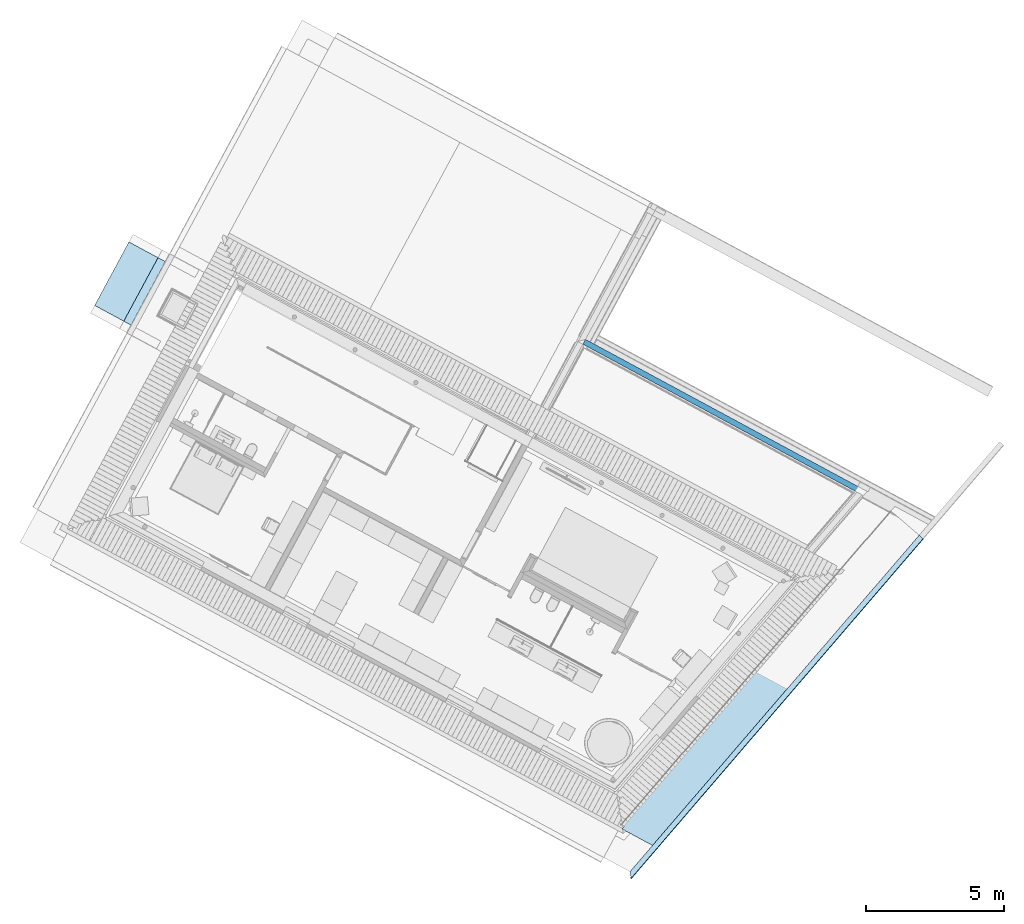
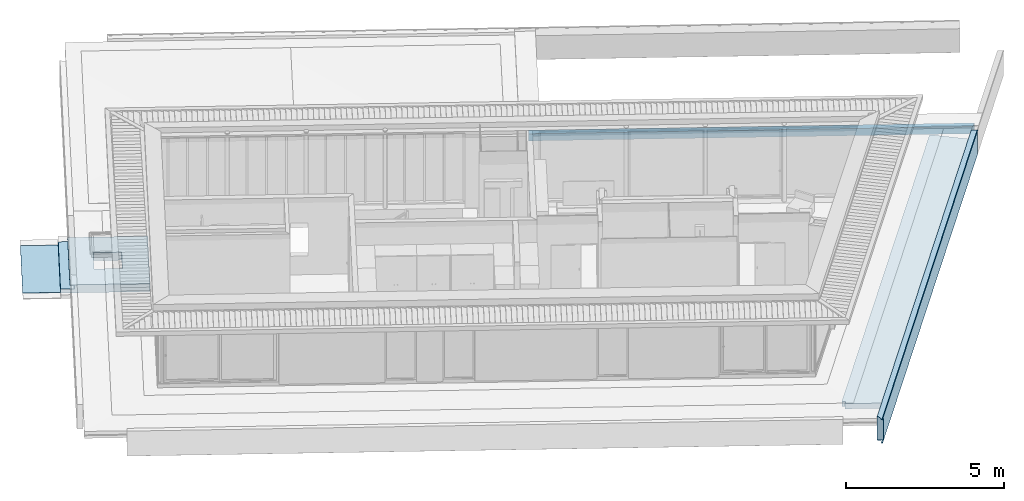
# One storey, part 6 of 41: 3 slabs.
"""IFC2X3 building model written with IfcOpenShell, lengths in metres."""

from ifc_helpers import new_model, entity, si_unit, converted_unit, derived_unit, money_unit, direction, frame, origin_with_axes, place, context, subcontext, project, spatial, polyline, outline, composite_profile, extrude, boolean, faceted_brep, material, material_list, type_object, element, save


model = new_model("IFC2X3")

# Units and contexts
model_context = context("Model", 3, precision=1e-05, world=origin_with_axes(), true_north=direction((0.0, 1.0)))
body_context = subcontext(model_context, "Body", "Model", "MODEL_VIEW")
ifc_project = project(units=[si_unit("LENGTHUNIT", "METRE"), si_unit("AREAUNIT", "SQUARE_METRE"), si_unit("VOLUMEUNIT", "CUBIC_METRE"), converted_unit("PLANEANGLEUNIT", "DEGREE", entity("IfcPlaneAngleMeasure", 0.0174532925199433), si_unit("PLANEANGLEUNIT", "RADIAN"), dimensions=[0, 0, 0, 0, 0, 0, 0]), money_unit("EUR"), converted_unit("TIMEUNIT", "Year", entity("IfcTimeMeasure", 31556926.0), si_unit("TIMEUNIT", "SECOND"), dimensions=[0, 0, 1, 0, 0, 0, 0]), si_unit("MASSUNIT", "GRAM", prefix="KILO"), si_unit("THERMODYNAMICTEMPERATUREUNIT", "DEGREE_CELSIUS"), si_unit("LUMINOUSINTENSITYUNIT", "LUMEN"), si_unit("ENERGYUNIT", "JOULE", prefix="MEGA"), derived_unit("THERMALCONDUCTANCEUNIT", [(si_unit("POWERUNIT", "WATT"), 1), (si_unit("LENGTHUNIT", "METRE"), -1), (si_unit("THERMODYNAMICTEMPERATUREUNIT", "KELVIN"), -1)]), derived_unit("SPECIFICHEATCAPACITYUNIT", [(si_unit("ENERGYUNIT", "JOULE"), 1), (si_unit("MASSUNIT", "GRAM", prefix="KILO"), -1), (si_unit("THERMODYNAMICTEMPERATUREUNIT", "KELVIN"), -1)]), derived_unit("MASSDENSITYUNIT", [(si_unit("MASSUNIT", "GRAM", prefix="KILO"), 1), (si_unit("VOLUMEUNIT", "CUBIC_METRE"), -1)])], contexts=[model_context])

# Site, building, storey
site_placement = place(None, frame((-3.949935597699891, 1.740105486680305, 0.0), z_axis=(0.0, 0.0, 1.0), x_axis=(0.8799804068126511, -0.475009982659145, 0.0)))
site = spatial("IfcSite", under=ifc_project, at=site_placement, Name="Gelände", CompositionType="ELEMENT")
building_placement = place(site_placement, origin_with_axes())
building = spatial("IfcBuilding", under=site, at=building_placement, Name="Gebäude", CompositionType="ELEMENT")
storey_placement = place(building_placement, frame((0.0, 0.0, 4.55), z_axis=(0.0, 0.0, 1.0), x_axis=(1.0, 0.0, 0.0)))
storey = spatial("IfcBuildingStorey", under=building, at=storey_placement, Name="Staffelgeschoss", CompositionType="ELEMENT", Elevation=4.55)

# Slabs
ifc_material_1 = material(Name="_SIWH - Beton, Stahlbeton")
slab_type_1 = type_object("IfcSlabType", Name="_SIWH - Beton, Stahlbeton 200", PredefinedType="FLOOR")
slab_1_placement = place(storey_placement, frame((17.36747696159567, 14.88304610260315, -0.3999999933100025), z_axis=(0.0, 0.0, 1.0), x_axis=(0.9999999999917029, -4.073605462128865e-06, 0.0)))
element("IfcSlab", 1, at=slab_1_placement, inside=storey, type_object=slab_type_1, material=ifc_material_1, Name="Wand-026", PredefinedType="FLOOR", context=body_context, shape_type="CSG", body=[
    boolean("DIFFERENCE", boolean("DIFFERENCE", boolean("DIFFERENCE", boolean("DIFFERENCE", extrude(outline(polyline([(-0.2000008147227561, 0.0), (14.11622564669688, 0.0), (14.11622564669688, 0.1999999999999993), (-0.2000008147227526, 0.1999999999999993), (-0.2000008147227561, 0.0)])), origin_with_axes(), (0.0, 0.0, 1.0), 0.2749999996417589), faceted_brep([(0.0, 0.0, 0.2749999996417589), (-8.147210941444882e-07, 0.1999999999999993, 0.2749999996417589), (-0.2000008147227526, 0.1999999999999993, 0.2749999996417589), (-0.2000008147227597, 0.0, 0.2749999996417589), (-8.147210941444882e-07, 0.1999999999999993, 0.0), (0.0, 0.0, 0.0), (-0.2000008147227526, 0.1999999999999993, 0.0), (-0.2000008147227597, 0.0, 0.0)], [[[0, 1, 2, 3]], [[4, 1, 0, 5]], [[1, 4, 6, 2]], [[2, 6, 7, 3]], [[5, 0, 3, 7]], [[4, 5, 7, 6]]])), faceted_brep([(11.22182561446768, 4.571329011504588e-05, 0.2749999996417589), (11.22181562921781, 0.0, 0.2749999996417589), (11.28327697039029, 0.0, 0.2749999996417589), (11.2832870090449, 4.596365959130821e-05, 0.2749999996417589), (11.22182561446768, 4.571329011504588e-05, 0.0), (11.22181562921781, 0.0, 0.0), (11.28327697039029, 0.0, 0.0), (11.2832870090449, 4.596365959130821e-05, 0.0)], [[[0, 1, 2, 3]], [[1, 0, 4, 5]], [[6, 2, 1, 5]], [[3, 2, 6, 7]], [[0, 3, 7, 4]], [[7, 6, 5, 4]]])), faceted_brep([(11.48800166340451, 4.679758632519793e-05, 0.2749999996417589), (11.48799144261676, 0.0, 0.2749999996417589), (11.53647099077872, 0.0, 0.2749999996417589), (11.53647099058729, 4.699503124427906e-05, 0.2749999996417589), (11.48800166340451, 4.679758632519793e-05, 0.0), (11.48799144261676, 0.0, 0.0), (11.53647099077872, 0.0, 0.0), (11.53647099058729, 4.699503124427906e-05, 0.0)], [[[0, 1, 2, 3]], [[1, 0, 4, 5]], [[6, 2, 1, 5]], [[3, 2, 6, 7]], [[0, 3, 7, 4]], [[7, 6, 5, 4]]])), faceted_brep([(14.1162122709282, 0.2000000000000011, 0.0), (14.11621227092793, 0.2000000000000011, 0.2749999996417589), (14.11622564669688, 0.1999999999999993, 0.2749999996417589), (14.11622564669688, 0.1999999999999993, 0.0), (14.07253143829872, 0.0, 0.2749999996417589), (14.07253143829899, 0.0, 0.0), (14.11622564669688, 0.0, 0.2749999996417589), (14.11622564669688, 0.0, 0.0)], [[[0, 1, 2, 3]], [[4, 1, 0, 5]], [[1, 4, 6, 2]], [[6, 7, 3, 2]], [[5, 0, 3, 7]], [[4, 5, 7, 6]]])),
])
ifc_material_2 = material(Name="_SIWH - Dämmung, weich Mineralwolle")
ifc_material_3 = material(Name="_SIWH - Beton, Stahlbeton Fertigteil")
ifc_material_4 = material(Name="_SIWH - Metall, Aluminium")
ifc_material_list_1 = material_list([ifc_material_2, ifc_material_1, ifc_material_3, ifc_material_4])
slab_type_2 = type_object("IfcSlabType", Name="_SIWH - Vordach+Arkade1 1555 x 980", PredefinedType="FLOOR")
slab_2_placement = place(storey_placement, frame((30.06017097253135, 14.86865152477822, -0.3999999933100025), z_axis=(0.0, 0.0, 1.0), x_axis=(-0.2133784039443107, -0.9769696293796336, 0.0)))
element("IfcSlab", 2, at=slab_2_placement, inside=storey, type_object=slab_type_2, material=ifc_material_list_1, Name="Wand-024", PredefinedType="FLOOR", context=body_context, shape_type="CSG", body=[
    boolean("DIFFERENCE", boolean("DIFFERENCE", boolean("DIFFERENCE", boolean("DIFFERENCE", boolean("DIFFERENCE", extrude(composite_profile([outline(polyline([(0.0, -0.1999999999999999), (0.1199999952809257, -0.1999999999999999), (0.1199999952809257, 5.496263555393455e-09), (0.0, 5.496263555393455e-09), (0.0, -0.1999999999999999)])), outline(polyline([(1.344999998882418, 1.11758913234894e-09), (0.120000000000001, 1.11758913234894e-09), (0.120000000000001, -0.1999999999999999), (1.344999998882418, -0.1999999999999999), (1.344999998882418, 1.11758913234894e-09)])), outline(polyline([(1.545000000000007, -0.570000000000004), (1.545000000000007, 0.3699875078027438), (1.345000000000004, 0.3599875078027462), (1.344999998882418, 1.11758913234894e-09), (1.344999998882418, -0.1999999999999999), (1.345000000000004, -0.5700000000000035), (1.355000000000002, -0.5800000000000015), (1.480000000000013, -0.5800000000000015), (1.49500000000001, -0.565000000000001), (1.510000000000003, -0.5800000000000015), (1.535000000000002, -0.5800000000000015), (1.545000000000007, -0.570000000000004)])), outline(polyline([(1.493152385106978, 0.3744038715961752), (1.493252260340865, 0.3724063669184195), (1.534048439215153, 0.3744461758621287), (1.553000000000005, 0.3948980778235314), (1.553000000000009, 0.3449999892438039), (1.555000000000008, 0.3449999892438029), (1.555000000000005, 0.3999999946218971), (1.53313506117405, 0.3764030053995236), (1.493152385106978, 0.3744038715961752)]))]), frame((-1.06792604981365e-07, 0.0, 0.0), z_axis=(1.0, 0.0, 0.0), x_axis=(0.0, 1.0, 0.0)), (0.0, 0.0, 1.0), 16.24091383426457), faceted_brep([(16.23884657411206, 1.555000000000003, 0.3724063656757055), (16.23884657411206, 1.555000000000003, 0.394898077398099), (16.23605485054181, 1.555000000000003, 0.3948980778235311), (16.24089372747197, 1.555000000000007, 0.400000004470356), (16.24091372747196, 1.555000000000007, 0.3999999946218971), (16.24091372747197, 1.55500000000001, 0.3449999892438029), (16.23884657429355, 1.555, 0.3449999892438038), (16.23884657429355, 1.555, 0.3699875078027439), (16.23928339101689, 1.552999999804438, 0.3724063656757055), (16.23928339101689, 1.552999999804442, 0.3948980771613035), (16.23649166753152, 1.552999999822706, 0.394898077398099), (16.23708736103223, 1.550272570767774, 0.394898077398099), (16.22328884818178, 1.533135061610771, 0.3764030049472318), (16.24091372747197, 1.533135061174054, 0.3764030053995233), (16.24091372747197, 1.493152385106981, 0.3744038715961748), (16.24091372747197, 1.493252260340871, 0.3724063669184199), (16.24091372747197, 1.534048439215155, 0.3744461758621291), (16.24091372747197, 1.553000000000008, 0.3948980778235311), (16.24091372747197, 1.553000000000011, 0.3449999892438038), (16.23928339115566, 1.553000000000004, 0.3449999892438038), (16.23928339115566, 1.553000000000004, 0.3699875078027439), (16.1830301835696, 1.534048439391, 0.3744461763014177), (16.22269331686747, 1.53586171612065, 0.3764030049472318), (16.19109619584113, 1.493152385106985, 0.374403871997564), (16.19117661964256, 1.493252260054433, 0.3724063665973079), (16.18234894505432, 1.533202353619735, 0.374403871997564)], [[[0, 1, 2, 3, 4, 5, 6, 7]], [[1, 0, 8, 9]], [[2, 1, 9, 10]], [[3, 2, 10, 11]], [[11, 12, 13, 4, 3]], [[4, 13, 14, 15, 16, 17, 18, 5]], [[19, 6, 5, 18]], [[7, 6, 19, 20]], [[0, 7, 20, 8]], [[20, 19, 18, 17, 9, 8]], [[10, 9, 17, 16, 21, 22]], [[10, 22, 12, 11]], [[12, 23, 14, 13]], [[23, 24, 15, 14]], [[25, 21, 16, 15, 24]], [[22, 21, 25, 23, 12]], [[25, 24, 23]]])), faceted_brep([(16.02812741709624, 1.5449999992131, -0.2000000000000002), (16.02812741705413, 1.544999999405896, 1.11758868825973e-09), (16.0281274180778, 1.544999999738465, 0.3449999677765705), (16.02812741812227, 1.54499999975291, 0.3599875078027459), (16.23284207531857, 1.545000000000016, 0.3699875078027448), (16.24091372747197, 1.545000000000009, 0.3699875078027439), (16.24091372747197, 1.545000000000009, -0.5700000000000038), (16.18678127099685, 1.545000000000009, -0.5699999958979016), (16.18166340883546, 1.545000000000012, -0.5649999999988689), (16.02812741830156, 1.544999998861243, -0.5650000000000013), (16.0718091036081, 1.344999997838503, 1.11758868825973e-09), (16.0718091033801, 1.344999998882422, -0.2000000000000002), (16.0718091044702, 1.344999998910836, 0.3449999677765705), (16.07180910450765, 1.34499999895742, 0.3599875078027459), (16.24091372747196, 1.345000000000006, 0.3599875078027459), (16.24091372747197, 1.510000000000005, -0.5800000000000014), (16.24091372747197, 1.535000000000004, -0.5800000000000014), (16.24091372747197, 1.344999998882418, 1.11758868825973e-09), (16.24091372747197, 1.344999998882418, -0.1999999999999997), (16.24091372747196, 1.345000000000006, -0.5700000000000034), (16.24091372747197, 1.355000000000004, -0.5800000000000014), (16.24091372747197, 1.480000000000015, -0.5800000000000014), (16.24091372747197, 1.495000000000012, -0.5650000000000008), (16.19920109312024, 1.534999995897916, -0.5800000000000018), (16.19258383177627, 1.49499999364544, -0.5649999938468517), (16.20466130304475, 1.509999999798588, -0.5800000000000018), (16.03904783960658, 1.494999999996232, -0.5649999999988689), (16.07180910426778, 1.3449999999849, -0.5649999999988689), (16.07180910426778, 1.3449999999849, -0.5699999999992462), (16.07986075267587, 1.354999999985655, -0.5800000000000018), (16.05255969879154, 1.479999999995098, -0.5800000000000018), (16.04013988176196, 1.489999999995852, -0.5699999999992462)], [[[0, 1, 2, 3, 4, 5, 6, 7, 8, 9]], [[10, 1, 0, 11]], [[12, 2, 1, 10]], [[13, 3, 2, 12]], [[13, 4, 3]], [[5, 4, 13, 14]], [[15, 16, 6, 5, 14, 17, 18, 19, 20, 21, 22]], [[16, 23, 7, 6]], [[24, 8, 7, 23, 25]], [[26, 9, 8, 24]], [[11, 0, 9, 26, 27]], [[17, 10, 11, 18]], [[13, 12, 10, 17, 14]], [[15, 25, 23, 16]], [[11, 27, 28, 19, 18]], [[19, 28, 29, 20]], [[20, 29, 30, 21]], [[31, 26, 24, 22, 21, 30]], [[22, 24, 25, 15]], [[27, 26, 31, 28]], [[28, 31, 30, 29]]])), faceted_brep([(14.96265338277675, 0.1199999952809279, -0.1999999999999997), (14.96265338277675, 0.1199999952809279, 5.496263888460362e-09), (16.24091372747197, 0.1199999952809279, 5.496263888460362e-09), (16.24091372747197, 0.1199999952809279, -0.1999999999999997), (14.98886239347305, 0.0, 5.496263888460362e-09), (14.98886239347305, 0.0, -0.1999999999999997), (16.24091372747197, 0.0, 5.496263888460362e-09), (16.24091372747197, 0.0, -0.1999999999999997)], [[[0, 1, 2, 3]], [[4, 1, 0, 5]], [[1, 4, 6, 2]], [[6, 7, 3, 2]], [[5, 0, 3, 7]], [[4, 5, 7, 6]]])), faceted_brep([(14.81793184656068, 1.344999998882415, -0.1999999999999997), (14.81793184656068, 1.344999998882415, 1.11758868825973e-09), (16.24091372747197, 1.344999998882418, 1.11758868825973e-09), (16.24091372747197, 1.344999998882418, -0.1999999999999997), (15.08548217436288, 0.120000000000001, 1.11758868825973e-09), (15.08548217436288, 0.120000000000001, -0.1999999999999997), (16.24091372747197, 0.1200000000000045, 1.11758868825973e-09), (16.24091372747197, 0.1200000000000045, -0.1999999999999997)], [[[0, 1, 2, 3]], [[4, 1, 0, 5]], [[1, 4, 6, 2]], [[3, 2, 6, 7]], [[5, 0, 3, 7]], [[4, 5, 7, 6]]])), faceted_brep([(0.02620890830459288, 5.335961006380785e-08, 0.0), (-1.06792604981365e-07, 0.1200000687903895, 0.0), (-1.06792604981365e-07, 0.0, 5.496263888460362e-09), (0.02620890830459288, 5.335961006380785e-08, -0.2000000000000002), (-1.06792604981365e-07, 0.1200000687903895, -0.2000000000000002), (-1.06792604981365e-07, 0.0, -0.1999999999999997)], [[[0, 1, 2]], [[1, 0, 3, 4]], [[1, 4, 5, 2]], [[3, 0, 2, 5]], [[4, 3, 5]]])),
])
ifc_material_5 = material(Name="_SIWH - Abgehängte Decke Arkade")
ifc_material_6 = material(Name="_SIWH - Holz, Bauholz")
ifc_material_7 = material(Name="_SIWH - Luftschicht vertikal")
ifc_material_list_2 = material_list([ifc_material_5, ifc_material_5, ifc_material_6, ifc_material_6, ifc_material_6, ifc_material_6, ifc_material_5, ifc_material_2, ifc_material_7, ifc_material_7, ifc_material_7])
slab_type_3 = type_object("IfcSlabType", Name="_SIWH - Vordach Eingang 1 4035 x 310", PredefinedType="FLOOR")
slab_3_placement = place(storey_placement, frame((2.637489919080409, 7.718034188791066, -0.6499999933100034), z_axis=(0.0, 0.0, 1.0), x_axis=(0.0, 1.0, 0.0)))
element("IfcSlab", 3, at=slab_3_placement, inside=storey, type_object=slab_type_3, material=ifc_material_list_2, Name="Wand-024", PredefinedType="FLOOR", context=body_context, shape_type="CSG", body=[
    boolean("DIFFERENCE", boolean("DIFFERENCE", boolean("DIFFERENCE", boolean("DIFFERENCE", extrude(composite_profile([outline(polyline([(-1.5, -0.3099999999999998), (2.535, -0.3099999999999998), (2.535, -0.2849999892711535), (2.509999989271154, -0.2849999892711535), (2.410000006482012, -0.2849999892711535), (1.784999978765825, -0.2849999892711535), (1.684999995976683, -0.2849999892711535), (0.7850000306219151, -0.2849999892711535), (0.68499998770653, -0.2849999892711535), (-0.1750000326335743, -0.2849999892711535), (-0.2750000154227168, -0.2849999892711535), (-0.300000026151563, -0.2849999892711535), (-1.5, -0.2849999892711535), (-1.5, -0.3099999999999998)])), outline(polyline([(-0.3000000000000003, -0.1599999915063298), (-0.3000000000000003, -0.2849999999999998), (-0.2750000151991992, -0.2849999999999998), (-0.2750000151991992, -0.1849999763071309), (-0.1750000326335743, -0.1849999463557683), (0.68499998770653, -0.1849999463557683), (0.7850000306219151, -0.1849999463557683), (1.684999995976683, -0.1849999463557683), (1.784999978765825, -0.1849999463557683), (2.410000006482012, -0.1849999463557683), (2.510000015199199, -0.1849999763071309), (2.510000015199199, -0.2849999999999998), (2.535, -0.2849999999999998), (2.535, -0.1599999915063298), (0.1600000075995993, -0.1599999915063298), (0.1349999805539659, -0.1599999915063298), (-0.3000000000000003, -0.1599999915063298)])), outline(polyline([(-0.1750000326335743, -0.1849999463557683), (-0.2750000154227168, -0.1849999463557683), (-0.2750000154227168, -0.2849999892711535), (-0.1750000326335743, -0.2849999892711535), (-0.1750000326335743, -0.1849999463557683)])), outline(polyline([(2.509999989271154, -0.1849999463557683), (2.410000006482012, -0.1849999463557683), (2.410000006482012, -0.2849999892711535), (2.509999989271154, -0.2849999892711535), (2.509999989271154, -0.1849999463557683)])), outline(polyline([(0.68499998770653, -0.1849999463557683), (0.68499998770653, -0.2849999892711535), (0.7850000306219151, -0.2849999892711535), (0.7850000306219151, -0.1849999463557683), (0.68499998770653, -0.1849999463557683)])), outline(polyline([(1.684999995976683, -0.1849999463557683), (1.684999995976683, -0.2849999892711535), (1.784999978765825, -0.2849999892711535), (1.784999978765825, -0.1849999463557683), (1.684999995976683, -0.1849999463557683)])), outline(polyline([(0.0, 0.0), (0.0, -0.0249999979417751), (0.1349999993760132, -0.0249999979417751), (0.1349999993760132, -0.1600000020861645), (0.1599999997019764, -0.1600000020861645), (0.1599999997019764, 0.0), (0.0, 0.0)])), outline(polyline([(2.535, -1.27405047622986e-08), (0.1600000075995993, -1.27405047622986e-08), (0.1600000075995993, -0.1599999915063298), (2.535, -0.1599999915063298), (2.535, -1.27405047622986e-08)])), outline(polyline([(0.6849999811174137, -0.1849999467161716), (-0.1750000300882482, -0.1849999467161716), (-0.1750000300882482, -0.2849999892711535), (0.6849999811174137, -0.2849999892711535), (0.6849999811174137, -0.1849999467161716)])), outline(polyline([(0.7850000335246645, -0.184999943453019), (0.7850000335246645, -0.2849999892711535), (1.684999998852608, -0.2849999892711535), (1.684999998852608, -0.184999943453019), (0.7850000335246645, -0.184999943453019)])), outline(polyline([(1.784999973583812, -0.1849999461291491), (1.784999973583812, -0.2849999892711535), (2.410000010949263, -0.2849999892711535), (2.410000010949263, -0.1849999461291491), (1.784999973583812, -0.1849999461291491)]))]), frame((0.0, 0.0, 0.0), z_axis=(-1.0, 0.0, 0.0), x_axis=(0.0, -1.0, 0.0)), (0.0, 0.0, -1.0), 2.614766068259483), faceted_brep([(1.757383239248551, -1.684999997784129, -0.3100000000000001), (0.8573832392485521, -1.684999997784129, -0.3100000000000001), (0.8573832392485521, -0.7849999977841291, -0.3100000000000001), (1.757383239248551, -0.7849999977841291, -0.3100000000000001), (1.757383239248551, -1.684999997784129, -0.284999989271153), (0.8573832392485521, -1.684999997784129, -0.2849999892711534), (0.8573832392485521, -0.7849999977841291, -0.2849999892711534), (1.757383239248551, -0.7849999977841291, -0.2849999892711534)], [[[0, 1, 2, 3]], [[4, 5, 1, 0]], [[2, 1, 5, 6]], [[6, 7, 3, 2]], [[0, 3, 7, 4]], [[4, 7, 6, 5]]])), faceted_brep([(1.757383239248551, -1.684999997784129, -0.1849999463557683), (0.8573832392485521, -1.684999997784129, -0.1849999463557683), (0.8573832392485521, -0.7849999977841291, -0.1849999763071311), (1.757383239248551, -0.7849999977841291, -0.1849999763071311), (1.757383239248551, -1.684999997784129, -0.1599999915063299), (0.8573832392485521, -1.684999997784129, -0.1599999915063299), (0.8573832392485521, -0.7849999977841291, -0.1599999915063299), (1.757383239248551, -0.7849999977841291, -0.1599999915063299)], [[[0, 1, 2, 3]], [[1, 0, 4, 5]], [[2, 1, 5, 6]], [[3, 2, 6, 7]], [[0, 3, 7, 4]], [[4, 7, 6, 5]]])), faceted_brep([(1.757383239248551, -1.684999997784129, -0.284999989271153), (1.757383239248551, -1.684999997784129, -0.1849999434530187), (0.8573832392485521, -1.684999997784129, -0.1849999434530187), (0.8573832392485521, -1.684999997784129, -0.2849999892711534), (1.757383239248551, -0.7849999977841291, -0.1849999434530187), (1.757383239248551, -0.7849999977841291, -0.2849999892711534), (0.8573832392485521, -0.7849999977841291, -0.1849999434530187), (0.8573832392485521, -0.7849999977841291, -0.2849999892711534)], [[[0, 1, 2, 3]], [[4, 1, 0, 5]], [[1, 4, 6, 2]], [[7, 3, 2, 6]], [[5, 0, 3, 7]], [[4, 5, 7, 6]]])), faceted_brep([(0.8573832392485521, -0.7849999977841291, -0.1599999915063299), (1.757383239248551, -0.7849999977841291, -0.1599999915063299), (1.757383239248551, -1.684999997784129, -0.1599999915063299), (0.8573832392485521, -1.684999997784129, -0.1599999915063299), (0.8573832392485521, -0.7849999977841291, -1.27405046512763e-08), (1.757383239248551, -0.7849999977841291, -1.27405046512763e-08), (1.757383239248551, -1.684999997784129, -1.27405046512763e-08), (0.8573832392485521, -1.684999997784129, -1.27405046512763e-08)], [[[0, 1, 2, 3]], [[4, 5, 1, 0]], [[5, 6, 2, 1]], [[6, 7, 3, 2]], [[7, 4, 0, 3]], [[4, 7, 6, 5]]])),
])

save(model, "model.ifc")
